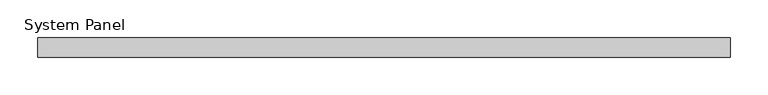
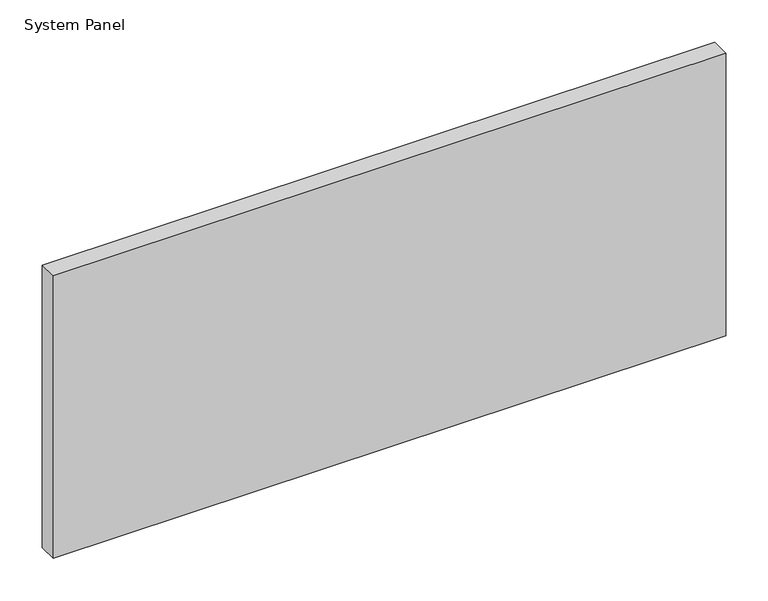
"""IFC4 building model written with IfcOpenShell, lengths in millimetres: plate geometry, System Panel : Glazed - ACMP (AL-1)."""

from ifc_helpers import new_model, si_unit, origin, origin_with_axes, place, context, project, spatial, polyline, outline, extrude, source, transform, mapped, element, save


def system_panel_fdb15bbf(model_context):
    return source(origin(), model_context, "Body", "SweptSolid", [
        extrude(outline(polyline([(457.2, 0.0), (-457.2, 0.0), (-457.2, 25.4), (457.2, 25.4), (457.2, 0.0)])), origin_with_axes(), (0.0, 0.0, 1.0), 406.3999976),
    ])


if __name__ == "__main__":
    model = new_model("IFC4")
    model_context = context("Model", 3, world=origin())
    ifc_project = project(units=[si_unit("LENGTHUNIT", "METRE", prefix="MILLI")], contexts=[model_context])
    site = spatial("IfcSite", under=ifc_project)
    building = spatial("IfcBuilding", under=site)
    placement = place(None, origin())
    system_panel_shape = system_panel_fdb15bbf(model_context)
    element("IfcPlate", 1, ObjectType="System Panel : Glazed - ACMP (AL-1)", at=placement, inside=building, context=model_context, shape_type="MappedRepresentation", body=[
        mapped(system_panel_shape, transform((0.0, 0.0, 0.0), x_axis=(1.0, 0.0, 0.0), y_axis=(0.0, 1.0, 0.0), z_axis=(0.0, 0.0, 1.0))),
    ])
    save(model, "model.ifc")
